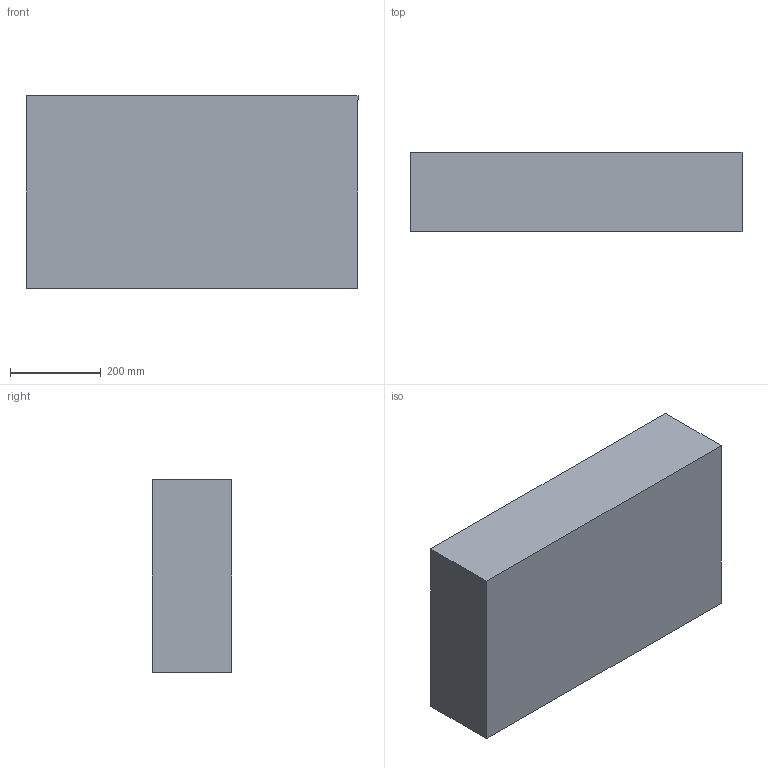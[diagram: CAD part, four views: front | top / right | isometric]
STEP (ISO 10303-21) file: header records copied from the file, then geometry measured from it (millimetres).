
FILE_DESCRIPTION (( 'STEP AP214' ), '1' );
FILE_NAME ('1605 Bottom Tub.STEP', '2019-02-13T21:44:52', ( '' ), ( '' ), 'SwSTEP 2.0', 'SolidWorks 2016', '' );
FILE_SCHEMA (( 'AUTOMOTIVE_DESIGN' ));
Length unit declared in the file: inch
Products named in the file (1): 1605 Bottom Tub
Bounding box: 733.3 x 174.82 x 425.98 mm (x, y, z)
Volume: 15478498 mm3; surface area: 1330350.8 mm2
Topology: 1 solids, 1 shells, 402 faces, 1021 edges, 628 vertices
Faces by surface type: bspline 133, cylinder 127, torus 72, plane 70
Entity records: 42185 total; most frequent: CARTESIAN_POINT 33833, ORIENTED_EDGE 2042, DIRECTION 1372, EDGE_CURVE 1021, VERTEX_POINT 628, AXIS2_PLACEMENT_3D 536, EDGE_LOOP 409, ADVANCED_FACE 402
